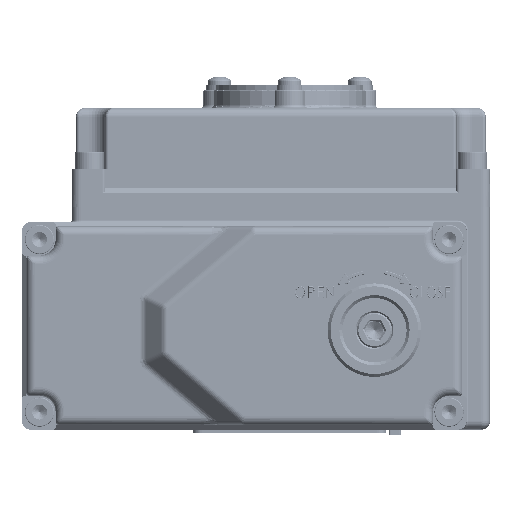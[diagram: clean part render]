
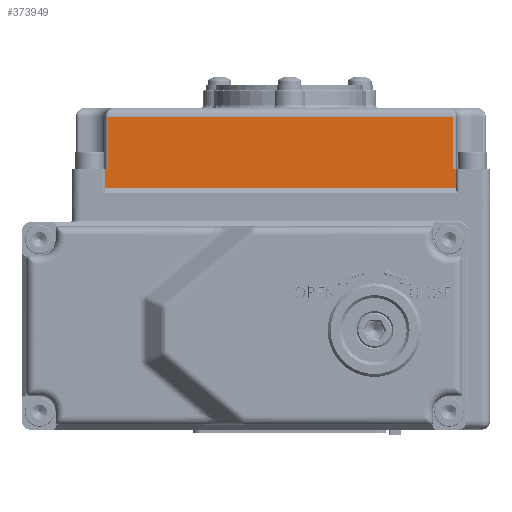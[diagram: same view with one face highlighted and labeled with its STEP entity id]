
A CAD part, front view. The second image highlights one B-rep face of the part: STEP entity #373949.
In plain terms, the highlighted planar face has unit normal (0, -1, 0).
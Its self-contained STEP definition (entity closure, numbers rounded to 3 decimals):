
#373949 = ADVANCED_FACE('',(#373950),#373964,.F.);
#373950 = FACE_BOUND('',#373951,.T.);
#373951 = EDGE_LOOP('',(#373952,#373975,#373991,#374007,#374023,#374039,
    #374055,#374071));
#373952 = ORIENTED_EDGE('',*,*,#373953,.T.);
#373953 = EDGE_CURVE('',#373954,#373956,#373958,.T.);
#373954 = VERTEX_POINT('',#373955);
#373955 = CARTESIAN_POINT('',(93.579,-118.957,
    45.));
#373956 = VERTEX_POINT('',#373957);
#373957 = CARTESIAN_POINT('',(93.579,-118.957,
    63.));
#373958 = SURFACE_CURVE('',#373959,(#373963),.PCURVE_S1.);
#373959 = LINE('',#373960,#373961);
#373960 = CARTESIAN_POINT('',(93.579,-118.957,
    66.));
#373961 = VECTOR('',#373962,1.);
#373962 = DIRECTION('',(0.,0.,1.));
#373963 = PCURVE('',#373964,#373969);
#373964 = PLANE('',#373965);
#373965 = AXIS2_PLACEMENT_3D('',#373966,#373967,#373968);
#373966 = CARTESIAN_POINT('',(-25.421,-118.957,
    66.));
#373967 = DIRECTION('',(0.,1.,0.));
#373968 = DIRECTION('',(-1.,0.,0.));
#373969 = DEFINITIONAL_REPRESENTATION('',(#373970),#373974);
#373970 = LINE('',#373971,#373972);
#373971 = CARTESIAN_POINT('',(-119.,0.));
#373972 = VECTOR('',#373973,1.);
#373973 = DIRECTION('',(0.,1.));
#373974 = ( GEOMETRIC_REPRESENTATION_CONTEXT(2) 
PARAMETRIC_REPRESENTATION_CONTEXT() REPRESENTATION_CONTEXT('2D SPACE',''
  ) );
#373975 = ORIENTED_EDGE('',*,*,#373976,.T.);
#373976 = EDGE_CURVE('',#373956,#373977,#373979,.T.);
#373977 = VERTEX_POINT('',#373978);
#373978 = CARTESIAN_POINT('',(-24.421,-118.957,
    63.));
#373979 = SURFACE_CURVE('',#373980,(#373984),.PCURVE_S1.);
#373980 = LINE('',#373981,#373982);
#373981 = CARTESIAN_POINT('',(-25.421,-118.957,
    63.));
#373982 = VECTOR('',#373983,1.);
#373983 = DIRECTION('',(-1.,0.,0.));
#373984 = PCURVE('',#373964,#373985);
#373985 = DEFINITIONAL_REPRESENTATION('',(#373986),#373990);
#373986 = LINE('',#373987,#373988);
#373987 = CARTESIAN_POINT('',(0.,-3.));
#373988 = VECTOR('',#373989,1.);
#373989 = DIRECTION('',(1.,0.));
#373990 = ( GEOMETRIC_REPRESENTATION_CONTEXT(2) 
PARAMETRIC_REPRESENTATION_CONTEXT() REPRESENTATION_CONTEXT('2D SPACE',''
  ) );
#373991 = ORIENTED_EDGE('',*,*,#373992,.T.);
#373992 = EDGE_CURVE('',#373977,#373993,#373995,.T.);
#373993 = VERTEX_POINT('',#373994);
#373994 = CARTESIAN_POINT('',(-24.421,-118.957,
    45.));
#373995 = SURFACE_CURVE('',#373996,(#374000),.PCURVE_S1.);
#373996 = LINE('',#373997,#373998);
#373997 = CARTESIAN_POINT('',(-24.421,-118.957,
    66.));
#373998 = VECTOR('',#373999,1.);
#373999 = DIRECTION('',(0.,0.,-1.));
#374000 = PCURVE('',#373964,#374001);
#374001 = DEFINITIONAL_REPRESENTATION('',(#374002),#374006);
#374002 = LINE('',#374003,#374004);
#374003 = CARTESIAN_POINT('',(-1.,0.));
#374004 = VECTOR('',#374005,1.);
#374005 = DIRECTION('',(0.,-1.));
#374006 = ( GEOMETRIC_REPRESENTATION_CONTEXT(2) 
PARAMETRIC_REPRESENTATION_CONTEXT() REPRESENTATION_CONTEXT('2D SPACE',''
  ) );
#374007 = ORIENTED_EDGE('',*,*,#374008,.T.);
#374008 = EDGE_CURVE('',#373993,#374009,#374011,.T.);
#374009 = VERTEX_POINT('',#374010);
#374010 = CARTESIAN_POINT('',(-25.421,-118.957,
    45.));
#374011 = SURFACE_CURVE('',#374012,(#374016),.PCURVE_S1.);
#374012 = LINE('',#374013,#374014);
#374013 = CARTESIAN_POINT('',(-33.921,-118.957,
    45.));
#374014 = VECTOR('',#374015,1.);
#374015 = DIRECTION('',(-1.,0.,0.));
#374016 = PCURVE('',#373964,#374017);
#374017 = DEFINITIONAL_REPRESENTATION('',(#374018),#374022);
#374018 = LINE('',#374019,#374020);
#374019 = CARTESIAN_POINT('',(8.5,-21.));
#374020 = VECTOR('',#374021,1.);
#374021 = DIRECTION('',(1.,0.));
#374022 = ( GEOMETRIC_REPRESENTATION_CONTEXT(2) 
PARAMETRIC_REPRESENTATION_CONTEXT() REPRESENTATION_CONTEXT('2D SPACE',''
  ) );
#374023 = ORIENTED_EDGE('',*,*,#374024,.T.);
#374024 = EDGE_CURVE('',#374009,#374025,#374027,.T.);
#374025 = VERTEX_POINT('',#374026);
#374026 = CARTESIAN_POINT('',(-25.421,-118.957,
    38.5));
#374027 = SURFACE_CURVE('',#374028,(#374032),.PCURVE_S1.);
#374028 = LINE('',#374029,#374030);
#374029 = CARTESIAN_POINT('',(-25.421,-118.957,
    66.));
#374030 = VECTOR('',#374031,1.);
#374031 = DIRECTION('',(0.,0.,-1.));
#374032 = PCURVE('',#373964,#374033);
#374033 = DEFINITIONAL_REPRESENTATION('',(#374034),#374038);
#374034 = LINE('',#374035,#374036);
#374035 = CARTESIAN_POINT('',(-0.,0.));
#374036 = VECTOR('',#374037,1.);
#374037 = DIRECTION('',(0.,-1.));
#374038 = ( GEOMETRIC_REPRESENTATION_CONTEXT(2) 
PARAMETRIC_REPRESENTATION_CONTEXT() REPRESENTATION_CONTEXT('2D SPACE',''
  ) );
#374039 = ORIENTED_EDGE('',*,*,#374040,.T.);
#374040 = EDGE_CURVE('',#374025,#374041,#374043,.T.);
#374041 = VERTEX_POINT('',#374042);
#374042 = CARTESIAN_POINT('',(94.579,-118.957,
    38.5));
#374043 = SURFACE_CURVE('',#374044,(#374048),.PCURVE_S1.);
#374044 = LINE('',#374045,#374046);
#374045 = CARTESIAN_POINT('',(-25.421,-118.957,
    38.5));
#374046 = VECTOR('',#374047,1.);
#374047 = DIRECTION('',(1.,0.,0.));
#374048 = PCURVE('',#373964,#374049);
#374049 = DEFINITIONAL_REPRESENTATION('',(#374050),#374054);
#374050 = LINE('',#374051,#374052);
#374051 = CARTESIAN_POINT('',(0.,-27.5));
#374052 = VECTOR('',#374053,1.);
#374053 = DIRECTION('',(-1.,0.));
#374054 = ( GEOMETRIC_REPRESENTATION_CONTEXT(2) 
PARAMETRIC_REPRESENTATION_CONTEXT() REPRESENTATION_CONTEXT('2D SPACE',''
  ) );
#374055 = ORIENTED_EDGE('',*,*,#374056,.F.);
#374056 = EDGE_CURVE('',#374057,#374041,#374059,.T.);
#374057 = VERTEX_POINT('',#374058);
#374058 = CARTESIAN_POINT('',(94.579,-118.957,
    45.));
#374059 = SURFACE_CURVE('',#374060,(#374064),.PCURVE_S1.);
#374060 = LINE('',#374061,#374062);
#374061 = CARTESIAN_POINT('',(94.579,-118.957,
    66.));
#374062 = VECTOR('',#374063,1.);
#374063 = DIRECTION('',(0.,0.,-1.));
#374064 = PCURVE('',#373964,#374065);
#374065 = DEFINITIONAL_REPRESENTATION('',(#374066),#374070);
#374066 = LINE('',#374067,#374068);
#374067 = CARTESIAN_POINT('',(-120.,0.));
#374068 = VECTOR('',#374069,1.);
#374069 = DIRECTION('',(0.,-1.));
#374070 = ( GEOMETRIC_REPRESENTATION_CONTEXT(2) 
PARAMETRIC_REPRESENTATION_CONTEXT() REPRESENTATION_CONTEXT('2D SPACE',''
  ) );
#374071 = ORIENTED_EDGE('',*,*,#374072,.T.);
#374072 = EDGE_CURVE('',#374057,#373954,#374073,.T.);
#374073 = SURFACE_CURVE('',#374074,(#374078),.PCURVE_S1.);
#374074 = LINE('',#374075,#374076);
#374075 = CARTESIAN_POINT('',(103.079,-118.957,
    45.));
#374076 = VECTOR('',#374077,1.);
#374077 = DIRECTION('',(-1.,0.,0.));
#374078 = PCURVE('',#373964,#374079);
#374079 = DEFINITIONAL_REPRESENTATION('',(#374080),#374084);
#374080 = LINE('',#374081,#374082);
#374081 = CARTESIAN_POINT('',(-128.5,-21.));
#374082 = VECTOR('',#374083,1.);
#374083 = DIRECTION('',(1.,0.));
#374084 = ( GEOMETRIC_REPRESENTATION_CONTEXT(2) 
PARAMETRIC_REPRESENTATION_CONTEXT() REPRESENTATION_CONTEXT('2D SPACE',''
  ) );
